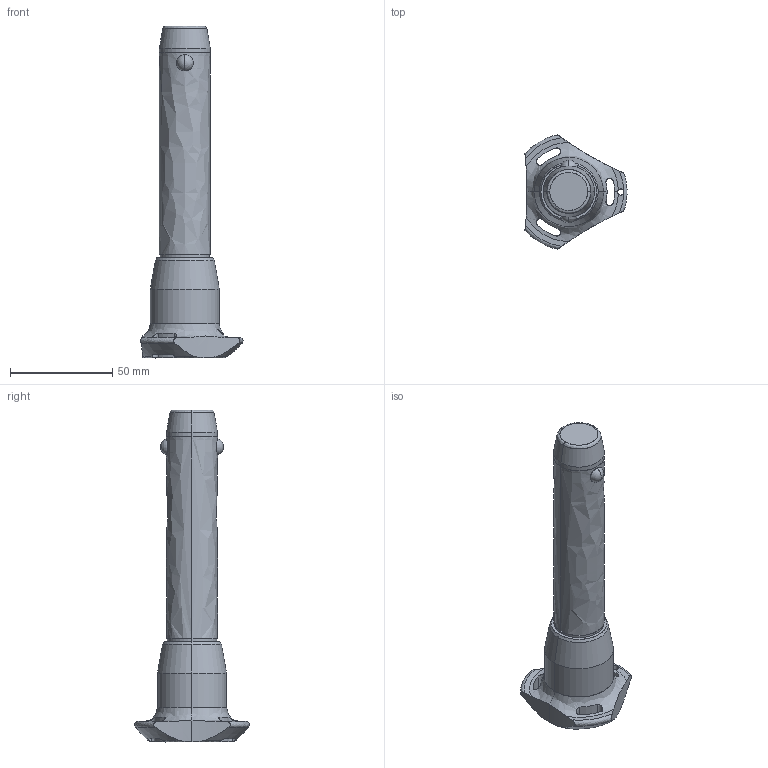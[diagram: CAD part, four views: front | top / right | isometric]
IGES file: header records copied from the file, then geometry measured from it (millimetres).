
Start section: SolidWorks IGES file using analytic representation for surfaces
Global section: file name: C:\Users\ianosborn\Desktop\QR1716_v2\QR1716_v2_20251114_IGES\QR1716.M25-090-T.igs; native system: SolidWorks 2019; preprocessor: SolidWorks 2019; author: IanOsborn; date: 251113.104636; units: millimetre
Bounding box: 50.03 x 56.02 x 162.7 mm (x, y, z)
Surface area: 18518.4 mm2 (no closed solid volume)
Topology: 0 solids, 0 shells, 68 faces, 1382 edges, 1378 vertices
Faces by surface type: revolution 52, bspline 16
